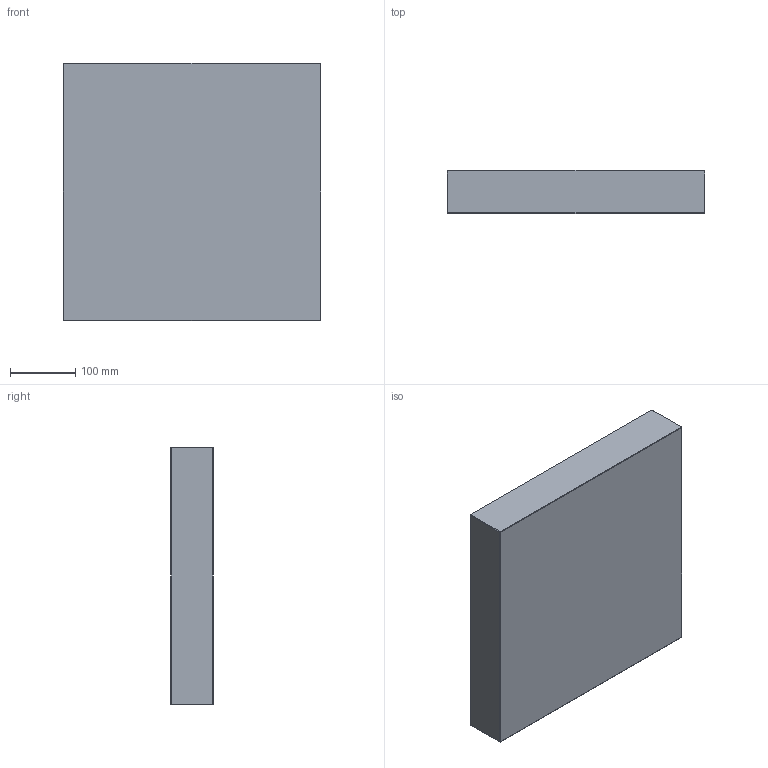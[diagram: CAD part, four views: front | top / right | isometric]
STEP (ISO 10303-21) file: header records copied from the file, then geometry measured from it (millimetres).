
FILE_DESCRIPTION (( 'STEP AP214' ), '1' );
FILE_NAME ('PC-P-396x396x66.STEP', '2020-04-01T10:32:10', ( 'August' ), ( '' ), 'SwSTEP 2.0', 'SolidWorks 2018', '' );
FILE_SCHEMA (( 'AUTOMOTIVE_DESIGN' ));
Length unit declared in the file: millimetre
Products named in the file (1): PC-P-396x396x66
Bounding box: 396 x 66 x 396 mm (x, y, z)
Volume: 10348145.3 mm3; surface area: 416162.6 mm2
Topology: 1 solids, 1 shells, 26 faces, 48 edges, 24 vertices
Faces by surface type: plane 26
Entity records: 634 total; most frequent: DIRECTION 102, CARTESIAN_POINT 99, ORIENTED_EDGE 96, EDGE_CURVE 48, LINE 48, VECTOR 48, AXIS2_PLACEMENT_3D 27, FACE_OUTER_BOUND 26
